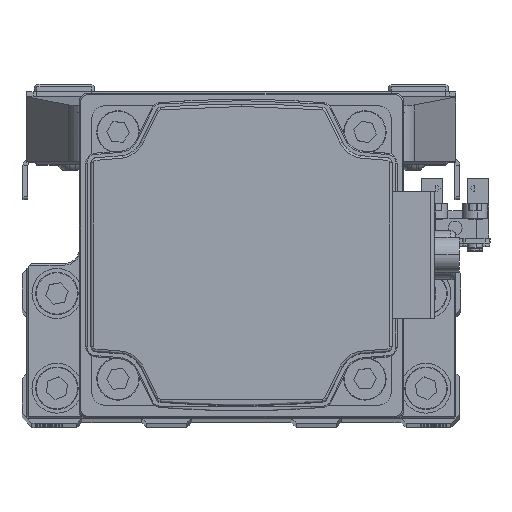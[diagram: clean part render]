
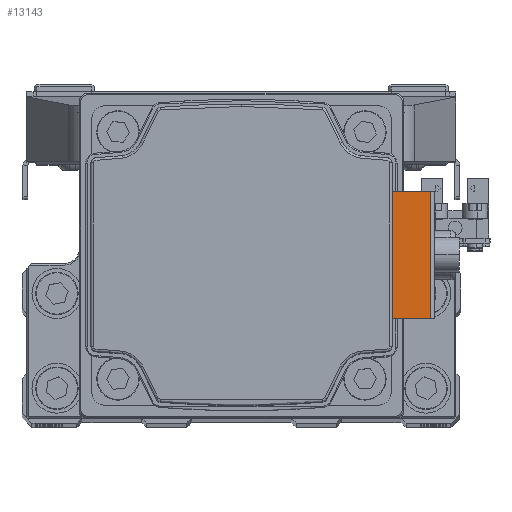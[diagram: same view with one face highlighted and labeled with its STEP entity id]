
A CAD part, top view. The second image highlights one B-rep face of the part: STEP entity #13143.
In plain terms, the highlighted planar face has unit normal (0, 0, 1) as drawn and (0, 0, -1) by its records, which use the part's own axes.
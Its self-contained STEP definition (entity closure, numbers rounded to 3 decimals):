
#1678 = LINE ( 'NONE', #16059, #6202 ) ;
#1900 = CARTESIAN_POINT ( 'NONE',  ( -12.75, 37.9, -88.696 ) ) ;
#5932 = AXIS2_PLACEMENT_3D ( 'NONE', #38401, #6146, #20517 ) ;
#6146 = DIRECTION ( 'NONE',  ( 0., 0., -1. ) ) ;
#6202 = VECTOR ( 'NONE', #30416, 1000. ) ;
#6647 = ORIENTED_EDGE ( 'NONE', *, *, #34780, .T. ) ;
#6741 = EDGE_LOOP ( 'NONE', ( #6647, #36675, #23307, #34721 ) ) ;
#7696 = VECTOR ( 'NONE', #39253, 1000. ) ;
#9682 = FACE_OUTER_BOUND ( 'NONE', #6741, .T. ) ;
#10198 = EDGE_CURVE ( 'NONE', #21639, #13469, #44003, .T. ) ;
#10529 = LINE ( 'NONE', #24898, #7696 ) ;
#10593 = EDGE_CURVE ( 'NONE', #33720, #13469, #10529, .T. ) ;
#11737 = CARTESIAN_POINT ( 'NONE',  ( 0., 37.9, -88.696 ) ) ;
#12221 = CARTESIAN_POINT ( 'NONE',  ( 12.75, 37.9, -88.696 ) ) ;
#12393 = CARTESIAN_POINT ( 'NONE',  ( 12.75, 30.2, -88.696 ) ) ;
#12456 = DIRECTION ( 'NONE',  ( 0., 1., 0. ) ) ;
#13143 = ADVANCED_FACE ( 'NONE', ( #9682 ), #24044, .T. ) ;
#13469 = VERTEX_POINT ( 'NONE', #12221 ) ;
#16059 = CARTESIAN_POINT ( 'NONE',  ( 18.438, 30.2, -88.696 ) ) ;
#20517 = DIRECTION ( 'NONE',  ( -1., 0., 0. ) ) ;
#21639 = VERTEX_POINT ( 'NONE', #1900 ) ;
#23307 = ORIENTED_EDGE ( 'NONE', *, *, #10593, .F. ) ;
#23457 = EDGE_CURVE ( 'NONE', #43466, #33720, #1678, .T. ) ;
#24044 = PLANE ( 'NONE',  #5932 ) ;
#24898 = CARTESIAN_POINT ( 'NONE',  ( 12.75, 33.991, -88.696 ) ) ;
#26097 = DIRECTION ( 'NONE',  ( 1., 0., 0. ) ) ;
#30358 = LINE ( 'NONE', #44720, #38015 ) ;
#30416 = DIRECTION ( 'NONE',  ( 1., 0., 0. ) ) ;
#33720 = VERTEX_POINT ( 'NONE', #12393 ) ;
#34721 = ORIENTED_EDGE ( 'NONE', *, *, #23457, .F. ) ;
#34780 = EDGE_CURVE ( 'NONE', #43466, #21639, #30358, .T. ) ;
#36675 = ORIENTED_EDGE ( 'NONE', *, *, #10198, .T. ) ;
#37045 = CARTESIAN_POINT ( 'NONE',  ( -12.75, 30.2, -88.696 ) ) ;
#38015 = VECTOR ( 'NONE', #12456, 1000. ) ;
#38401 = CARTESIAN_POINT ( 'NONE',  ( 0., 37.9, -88.696 ) ) ;
#39253 = DIRECTION ( 'NONE',  ( 0., 1., 0. ) ) ;
#42246 = VECTOR ( 'NONE', #26097, 1000. ) ;
#43466 = VERTEX_POINT ( 'NONE', #37045 ) ;
#44003 = LINE ( 'NONE', #11737, #42246 ) ;
#44720 = CARTESIAN_POINT ( 'NONE',  ( -12.75, 37.9, -88.696 ) ) ;
